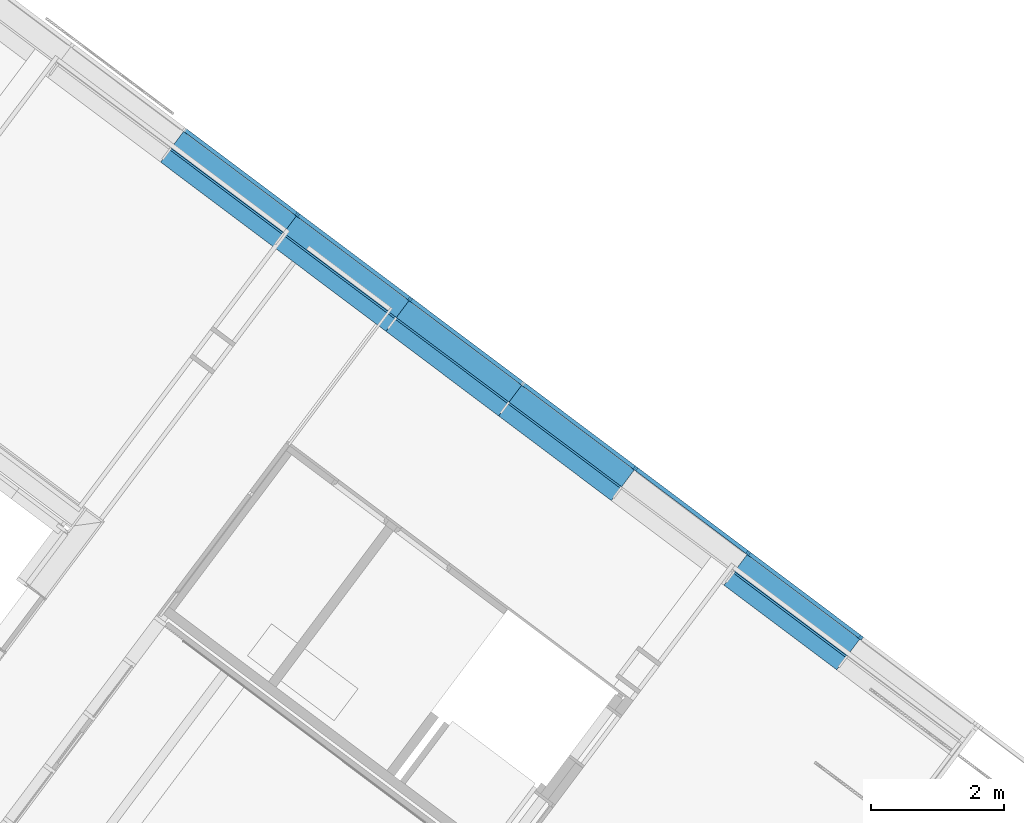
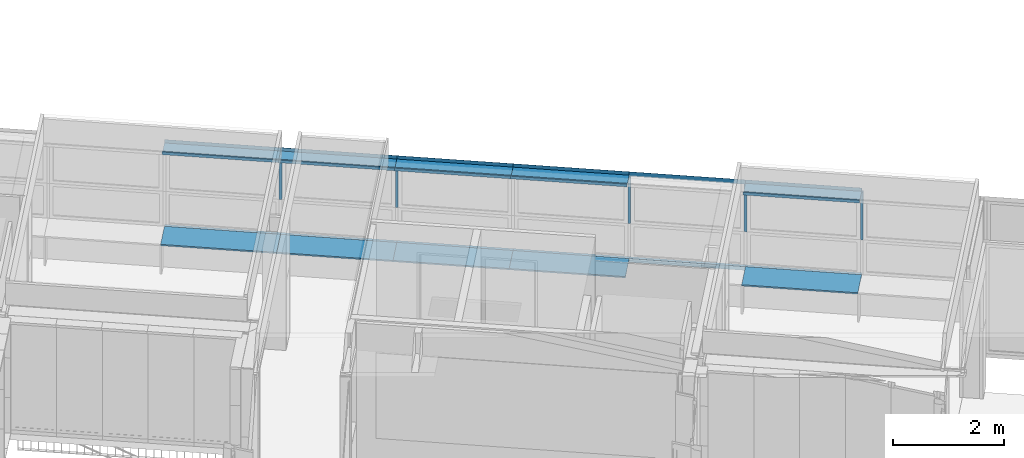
# One storey, part 71 of 243: 27 members, 2 elements without a shape of their own.
"""IFC2X3 building model written with IfcOpenShell, lengths in metres."""

import ifcopenshell
import ifcopenshell.guid

model = None  # the IFC model being written
_history = None  # IfcOwnerHistory: only IFC2X3 demands one
_inside = {}  # id of a spatial element -> (the spatial element, [elements in it])
_under = {}  # id of a project, library or spatial element -> (it, [spatial elements below it])
_declared = {}  # id of a project -> (the project, [libraries it declares])
_typed = {}  # id of a type object -> (the type object, [elements of that type])
_made_of = {}  # id of a material, layer set ... -> (it, [elements and type objects made of it])


def new_model(schema):
    """Start an empty IFC model of exactly this schema.

    Asked for "IFC4X3", IfcOpenShell would pick the latest addendum, in which some entities
    have other attributes; the version numbers below select the first issue.
    IFC2X3 requires an IfcOwnerHistory on every rooted entity: one is made here for all.
    """
    global model, _history
    if schema == "IFC4X3":
        model = ifcopenshell.file(schema_version=(4, 3, 0, 0))
    else:
        model = ifcopenshell.file(schema=schema)
    _inside.clear()
    _under.clear()
    _declared.clear()
    _typed.clear()
    _made_of.clear()
    _history = None
    if model.schema == "IFC2X3":
        org = make("IfcOrganization", Name="unknown")
        user = make(
            "IfcPersonAndOrganization",
            ThePerson=make("IfcPerson", FamilyName="unknown"),
            TheOrganization=org,
        )
        app = make(
            "IfcApplication",
            ApplicationDeveloper=org,
            Version="unknown",
            ApplicationFullName="unknown",
            ApplicationIdentifier="unknown",
        )
        _history = make(
            "IfcOwnerHistory",
            OwningUser=user,
            OwningApplication=app,
            ChangeAction="ADDED",
            CreationDate=0,
        )
    return model


def make(cls, **values):
    """One entity of the class cls with the attributes given. An attribute that is None is left unset."""
    return model.create_entity(
        cls, **{name: value for name, value in values.items() if value is not None}
    )


def entity(cls, *values):
    """Any entity or typed value of the class cls, its attributes in the order of the schema. None: left unset."""
    e = model.create_entity(cls)
    for i, value in enumerate(values):
        if value is not None:
            e[i] = value
    return e


def rooted(cls, **values):
    """An entity with a GlobalId (a new one), such as an element, a storey or a relation."""
    return make(cls, GlobalId=ifcopenshell.guid.new(), OwnerHistory=_history, **values)


def si_unit(unit_type, name, prefix=None):
    """IfcSIUnit, for example si_unit("LENGTHUNIT", "METRE", prefix="MILLI")."""
    return make("IfcSIUnit", UnitType=unit_type, Prefix=prefix, Name=name)


def converted_unit(unit_type, name, factor, base, dimensions=None, offset=None):
    """IfcConversionBasedUnit, such as the inch: factor (a typed value) times the base unit."""
    return make(
        "IfcConversionBasedUnit"
        if offset is None
        else "IfcConversionBasedUnitWithOffset",
        ConversionOffset=offset,
        Dimensions=None
        if dimensions is None
        else entity("IfcDimensionalExponents", *dimensions),
        UnitType=unit_type,
        Name=name,
        ConversionFactor=make(
            "IfcMeasureWithUnit", ValueComponent=factor, UnitComponent=base
        ),
    )


def derived_unit(unit_type, elements):
    """IfcDerivedUnit: a product of units, each with its exponent."""
    return make(
        "IfcDerivedUnit",
        Elements=[
            make("IfcDerivedUnitElement", Unit=unit, Exponent=power)
            for unit, power in elements
        ],
        UnitType=unit_type,
    )


def assignment(units):
    """IfcUnitAssignment: the units of a project."""
    return None if units is None else make("IfcUnitAssignment", Units=units)


def point(xyz):
    """IfcCartesianPoint."""
    return None if xyz is None else make("IfcCartesianPoint", Coordinates=xyz)


def direction(xyz):
    """IfcDirection."""
    return None if xyz is None else make("IfcDirection", DirectionRatios=xyz)


def frame(location, z_axis=None, x_axis=None):
    """IfcAxis2Placement3D, a coordinate frame: its origin and axes. An axis left out is left unset."""
    return make(
        "IfcAxis2Placement3D",
        Location=point(location),
        Axis=direction(z_axis),
        RefDirection=direction(x_axis),
    )


def frame_2d(location, x_axis=None):
    """IfcAxis2Placement2D, a coordinate frame in the plane: its origin and x axis."""
    return make(
        "IfcAxis2Placement2D", Location=point(location), RefDirection=direction(x_axis)
    )


def origin():
    """The frame at (0, 0, 0) with its axes left unset."""
    return frame((0.0, 0.0, 0.0))


def origin_2d_with_axis():
    """The frame at (0, 0) in the plane with the x axis (1, 0) written out."""
    return frame_2d((0.0, 0.0), x_axis=(1.0, 0.0))


def place(relative_to, where):
    """IfcLocalPlacement: puts the frame where relative to a parent placement (None: the world)."""
    return make(
        "IfcLocalPlacement", PlacementRelTo=relative_to, RelativePlacement=where
    )


def context(
    kind, dimensions, precision=None, world=None, true_north=None, identifier=None
):
    """IfcGeometricRepresentationContext, for example the 3D "Model" context."""
    return make(
        "IfcGeometricRepresentationContext",
        ContextIdentifier=identifier,
        ContextType=kind,
        CoordinateSpaceDimension=dimensions,
        Precision=precision,
        WorldCoordinateSystem=world,
        TrueNorth=true_north,
    )


def subcontext(parent, identifier, kind, view, scale=None):
    """IfcGeometricRepresentationSubContext, for example "Body" below "Model"."""
    return make(
        "IfcGeometricRepresentationSubContext",
        ContextIdentifier=identifier,
        ContextType=kind,
        ParentContext=parent,
        TargetScale=scale,
        TargetView=view,
    )


def project(units=None, contexts=None):
    """IfcProject with its units and contexts."""
    return rooted(
        "IfcProject",
        Name="project",
        RepresentationContexts=contexts,
        UnitsInContext=assignment(units),
    )


def spatial(cls, under=None, at=None, **own):
    """A site, building, storey or space (cls), placed at a placement, below another one or the project."""
    s = rooted(cls, ObjectPlacement=at, **own)
    if under is not None:
        _under.setdefault(under.id(), (under, []))[1].append(s)
    return s


def polyline(points):
    """IfcPolyline through the points."""
    return make("IfcPolyline", Points=[point(p) for p in points])


def profile(cls, at=None, kind="AREA", **sizes):
    """A parametric profile (cls). Its sizes go by their IFC names, for example OverallWidth=200.0."""
    return make(cls, ProfileType=kind, Position=at, **sizes)


def rectangle(**sizes):
    """IfcRectangleProfileDef."""
    return profile("IfcRectangleProfileDef", **sizes)


def outline(outer, holes=None, kind="AREA"):
    """IfcArbitraryClosedProfileDef: a profile drawn as a closed curve; with holes, ...WithVoids."""
    if holes is None:
        return make("IfcArbitraryClosedProfileDef", ProfileType=kind, OuterCurve=outer)
    return make(
        "IfcArbitraryProfileDefWithVoids",
        ProfileType=kind,
        OuterCurve=outer,
        InnerCurves=holes,
    )


def extrude(swept, where, along, depth):
    """IfcExtrudedAreaSolid: the profile swept, set in the frame where, extruded along a direction by depth."""
    return make(
        "IfcExtrudedAreaSolid",
        SweptArea=swept,
        Position=where,
        ExtrudedDirection=direction(along),
        Depth=depth,
    )


def shape(context_of_items, identifier, shape_type, items):
    """IfcShapeRepresentation: the items that make up one representation, for example the "Body"."""
    return make(
        "IfcShapeRepresentation",
        ContextOfItems=context_of_items,
        RepresentationIdentifier=identifier,
        RepresentationType=shape_type,
        Items=items,
    )


def source(mapping_origin, context_of_items, identifier, shape_type, items):
    """IfcRepresentationMap: a shape defined once, which mapped items show again and again."""
    return make(
        "IfcRepresentationMap",
        MappingOrigin=mapping_origin,
        MappedRepresentation=shape(context_of_items, identifier, shape_type, items),
    )


def transform(
    local_origin,
    x_axis=None,
    y_axis=None,
    z_axis=None,
    scale=None,
    scale2=None,
    scale3=None,
    uniform=True,
):
    """IfcCartesianTransformationOperator3D, or its non-uniform kind. x_axis, y_axis, z_axis: its Axis1, 2, 3."""
    if uniform:
        return make(
            "IfcCartesianTransformationOperator3D",
            Axis1=direction(x_axis),
            Axis2=direction(y_axis),
            LocalOrigin=point(local_origin),
            Scale=scale,
            Axis3=direction(z_axis),
        )
    return make(
        "IfcCartesianTransformationOperator3DnonUniform",
        Axis1=direction(x_axis),
        Axis2=direction(y_axis),
        LocalOrigin=point(local_origin),
        Scale=scale,
        Axis3=direction(z_axis),
        Scale2=scale2,
        Scale3=scale3,
    )


def mapped(mapping_source, mapping_target):
    """IfcMappedItem: shows the shape of a source again, moved by a transform."""
    return make(
        "IfcMappedItem", MappingSource=mapping_source, MappingTarget=mapping_target
    )


def material(Name=None, Category=None):
    """IfcMaterial."""
    return make("IfcMaterial", Name=Name, Category=Category)


def made_of(thing, what):
    """Note that an element or type object is made of a material, layer set ...; save() writes the relation."""
    if what is not None:
        _made_of.setdefault(what.id(), (what, []))[1].append(thing)
    return thing


def type_object(cls, material=None, **own):
    """A type object (cls), such as IfcWallType, which elements share."""
    return made_of(rooted(cls, **own), material)


def type_shapes(of_type, sources):
    """Give a type object the sources (RepresentationMaps) that its elements show as mapped items."""
    of_type.RepresentationMaps = sources


def element(
    cls,
    number,
    at=None,
    inside=None,
    cuts=None,
    type_object=None,
    material=None,
    context=None,
    identifier="Body",
    shape_type=None,
    held_by="IfcProductDefinitionShape",
    body=None,
    shapes=None,
    **own,
):
    """One element of the class cls, such as IfcWall. Its Tag is "e" and its number.

    at: its placement. inside: the storey or other place that contains it. cuts: it is an
    opening in that element (IfcRelVoidsElement). A single representation is given by context,
    identifier, shape_type and body (its items); several are given by shapes. held_by: the class
    of the entity that holds the representations. save() writes the other relations.
    """
    e = rooted(cls, Tag="e%d" % number, ObjectPlacement=at, **own)
    if body is not None:
        shapes = [shape(context, identifier, shape_type, body)]
    if shapes is not None:
        e.Representation = make(held_by, Representations=shapes)
    if inside is not None:
        _inside.setdefault(inside.id(), (inside, []))[1].append(e)
    if cuts is not None:
        rooted(
            "IfcRelVoidsElement", RelatingBuildingElement=cuts, RelatedOpeningElement=e
        )
    if type_object is not None:
        _typed.setdefault(type_object.id(), (type_object, []))[1].append(e)
    return made_of(e, material)


def aggregate(whole, parts):
    """IfcRelAggregates: a whole, such as a stair, and the parts it consists of."""
    return rooted("IfcRelAggregates", RelatingObject=whole, RelatedObjects=parts)


def save(model, path):
    """Write the relations noted so far, then the file.

    IfcRelAggregates (storeys below a building ...), IfcRelContainedInSpatialStructure (elements
    in a storey), IfcRelDefinesByType, IfcRelAssociatesMaterial and IfcRelDeclares: one each for
    every whole, place, type object, material and project.
    """
    for whole, parts in _under.values():
        aggregate(whole, parts)
    for where, things in _inside.values():
        rooted(
            "IfcRelContainedInSpatialStructure",
            RelatedElements=things,
            RelatingStructure=where,
        )
    for kind, things in _typed.values():
        rooted("IfcRelDefinesByType", RelatedObjects=things, RelatingType=kind)
    for what, things in _made_of.values():
        rooted("IfcRelAssociatesMaterial", RelatedObjects=things, RelatingMaterial=what)
    for by, libraries in _declared.values():
        rooted("IfcRelDeclares", RelatingContext=by, RelatedDefinitions=libraries)
    model.write(path)


model = new_model("IFC2X3")

# Units and contexts
model_context = context("Model", 3, precision=1e-05, world=origin(), true_north=direction((6.123031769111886e-17, 1.0)))
body_context = subcontext(model_context, "Body", "Model", "MODEL_VIEW")
ifc_project = project(units=[si_unit("LENGTHUNIT", "METRE"), si_unit("AREAUNIT", "SQUARE_METRE"), si_unit("VOLUMEUNIT", "CUBIC_METRE"), converted_unit("PLANEANGLEUNIT", "DEGREE", entity("IfcRatioMeasure", 0.017453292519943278), si_unit("PLANEANGLEUNIT", "RADIAN"), dimensions=[0, 0, 0, 0, 0, 0, 0]), si_unit("MASSUNIT", "GRAM", prefix="KILO"), derived_unit("MASSDENSITYUNIT", [(si_unit("MASSUNIT", "GRAM", prefix="KILO"), 1), (si_unit("LENGTHUNIT", "METRE"), -3)]), derived_unit("IONCONCENTRATIONUNIT", [(si_unit("MASSUNIT", "GRAM", prefix="KILO"), 1), (si_unit("LENGTHUNIT", "METRE"), -3)]), derived_unit("MOMENTOFINERTIAUNIT", [(si_unit("LENGTHUNIT", "METRE"), 4)]), si_unit("TIMEUNIT", "SECOND"), si_unit("FREQUENCYUNIT", "HERTZ"), si_unit("THERMODYNAMICTEMPERATUREUNIT", "DEGREE_CELSIUS"), derived_unit("THERMALTRANSMITTANCEUNIT", [(si_unit("MASSUNIT", "GRAM", prefix="KILO"), 1), (si_unit("THERMODYNAMICTEMPERATUREUNIT", "KELVIN"), -1), (si_unit("TIMEUNIT", "SECOND"), -3)]), derived_unit("THERMALCONDUCTANCEUNIT", [(si_unit("MASSUNIT", "GRAM", prefix="KILO"), 1), (si_unit("THERMODYNAMICTEMPERATUREUNIT", "KELVIN"), -1), (si_unit("TIMEUNIT", "SECOND"), -3), (si_unit("LENGTHUNIT", "METRE"), 1)]), derived_unit("VOLUMETRICFLOWRATEUNIT", [(si_unit("LENGTHUNIT", "METRE"), 3), (si_unit("TIMEUNIT", "SECOND"), -1)]), derived_unit("MASSFLOWRATEUNIT", [(si_unit("MASSUNIT", "GRAM", prefix="KILO"), 1), (si_unit("TIMEUNIT", "SECOND"), -1)]), derived_unit("ROTATIONALFREQUENCYUNIT", [(si_unit("TIMEUNIT", "SECOND"), -1)]), si_unit("ELECTRICCURRENTUNIT", "AMPERE"), si_unit("ELECTRICVOLTAGEUNIT", "VOLT"), si_unit("POWERUNIT", "WATT"), si_unit("FORCEUNIT", "NEWTON", prefix="KILO"), si_unit("ILLUMINANCEUNIT", "LUX"), si_unit("LUMINOUSFLUXUNIT", "LUMEN"), si_unit("LUMINOUSINTENSITYUNIT", "CANDELA"), derived_unit("USERDEFINED", [(si_unit("MASSUNIT", "GRAM", prefix="KILO"), -1), (si_unit("LENGTHUNIT", "METRE"), -2), (si_unit("TIMEUNIT", "SECOND"), 3), (si_unit("LUMINOUSFLUXUNIT", "LUMEN"), 1)]), derived_unit("USERDEFINED", [(si_unit("MASSUNIT", "GRAM", prefix="KILO"), 1), (si_unit("TIMEUNIT", "SECOND"), -3), (si_unit("LENGTHUNIT", "METRE"), 3), (si_unit("ELECTRICCURRENTUNIT", "AMPERE"), -2)]), derived_unit("SOUNDPOWERUNIT", [(si_unit("MASSUNIT", "GRAM", prefix="KILO"), 1), (si_unit("TIMEUNIT", "SECOND"), -3), (si_unit("LENGTHUNIT", "METRE"), 2)]), derived_unit("SOUNDPRESSUREUNIT", [(si_unit("MASSUNIT", "GRAM", prefix="KILO"), 1), (si_unit("LENGTHUNIT", "METRE"), -1), (si_unit("TIMEUNIT", "SECOND"), -2)]), derived_unit("LINEARVELOCITYUNIT", [(si_unit("LENGTHUNIT", "METRE"), 1), (si_unit("TIMEUNIT", "SECOND"), -1)]), si_unit("PRESSUREUNIT", "PASCAL"), derived_unit("USERDEFINED", [(si_unit("MASSUNIT", "GRAM", prefix="KILO"), 1), (si_unit("LENGTHUNIT", "METRE"), -2), (si_unit("TIMEUNIT", "SECOND"), -2)]), derived_unit("LINEARFORCEUNIT", [(si_unit("MASSUNIT", "GRAM", prefix="KILO"), 1), (si_unit("TIMEUNIT", "SECOND"), -2)]), derived_unit("PLANARFORCEUNIT", [(si_unit("MASSUNIT", "GRAM", prefix="KILO"), 1), (si_unit("LENGTHUNIT", "METRE"), -1), (si_unit("TIMEUNIT", "SECOND"), -2)]), derived_unit("SPECIFICHEATCAPACITYUNIT", [(si_unit("THERMODYNAMICTEMPERATUREUNIT", "KELVIN"), -1), (si_unit("LENGTHUNIT", "METRE"), 2), (si_unit("TIMEUNIT", "SECOND"), -2)]), derived_unit("HEATINGVALUEUNIT", [(si_unit("LENGTHUNIT", "METRE"), 2), (si_unit("TIMEUNIT", "SECOND"), -2)]), derived_unit("VAPORPERMEABILITYUNIT", [(si_unit("LENGTHUNIT", "METRE"), -1), (si_unit("TIMEUNIT", "SECOND"), 1)]), derived_unit("DYNAMICVISCOSITYUNIT", [(si_unit("MASSUNIT", "GRAM", prefix="KILO"), 1), (si_unit("TIMEUNIT", "SECOND"), -1), (si_unit("LENGTHUNIT", "METRE"), -1)]), derived_unit("THERMALEXPANSIONCOEFFICIENTUNIT", [(si_unit("THERMODYNAMICTEMPERATUREUNIT", "KELVIN"), -1)]), derived_unit("MODULUSOFELASTICITYUNIT", [(si_unit("MASSUNIT", "GRAM", prefix="KILO"), 1), (si_unit("LENGTHUNIT", "METRE"), -1), (si_unit("TIMEUNIT", "SECOND"), -2)]), derived_unit("ISOTHERMALMOISTURECAPACITYUNIT", [(si_unit("LENGTHUNIT", "METRE"), 3), (si_unit("MASSUNIT", "GRAM", prefix="KILO"), -1)]), derived_unit("MOISTUREDIFFUSIVITYUNIT", [(si_unit("TIMEUNIT", "SECOND"), -1), (si_unit("LENGTHUNIT", "METRE"), 2)])], contexts=[model_context])

# Site, building, storey
site_placement = place(None, frame((0.0, 0.0, 235.0), z_axis=(0.0, 0.0, 1.0), x_axis=(-0.7996477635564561, 0.6004693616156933, 0.0)))
site = spatial("IfcSite", under=ifc_project, at=site_placement, Name="Default", CompositionType="ELEMENT")
building_placement = place(site_placement, origin())
building = spatial("IfcBuilding", under=site, at=building_placement, CompositionType="ELEMENT")
storey_placement = place(building_placement, origin())
storey = spatial("IfcBuildingStorey", under=building, at=storey_placement, Name="P0- Escola", CompositionType="ELEMENT", Elevation=0.0)

# Curtain wall, members
curtain_wall_type_1 = type_object("IfcCurtainWallType", Name="Muro cortina:MC- EXT- MC6", PredefinedType="NOTDEFINED")
curtain_wall_1_placement = place(storey_placement, origin())
curtain_wall_1 = element("IfcCurtainWall", 1, at=curtain_wall_1_placement, inside=storey, type_object=curtain_wall_type_1, Name="Muro cortina:MC- EXT- MC6", ObjectType="Muro cortina:MC- EXT- MC6")
ifc_material_1 = material(Name="_Alumini- T1- Perfil")
member_type_1 = type_object("IfcMemberType", Name="Montante rectangular:MC- Alu- 140x52,5 cm- Fa pista- Superior", PredefinedType="MULLION", material=ifc_material_1)
shared_shape_1 = source(origin(), body_context, "Body", "SweptSolid", [
    extrude(outline(polyline([(-0.03933333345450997, -0.04916666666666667), (0.02066666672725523, -0.04916666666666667), (0.020666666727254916, 0.048333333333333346), (0.018666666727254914, 0.04833333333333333), (0.018666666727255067, 0.00083333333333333), (-0.03933333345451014, 0.00083333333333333), (-0.03933333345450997, -0.04916666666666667)])), frame((-0.048333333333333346, -0.03933333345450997, -2.117000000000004), z_axis=(0.0, 0.0, 1.0), x_axis=(0.0, -1.0, 0.0)), (0.0, 0.0, 1.0), 2.117000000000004),
])
type_shapes(member_type_1, [shared_shape_1])
member_1_placement = place(curtain_wall_1_placement, frame((51.51814360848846, -42.340191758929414, 2.6000000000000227), z_axis=(1.0, 0.0, 0.0), x_axis=(0.0, 0.0, 1.0)))
member_1 = element("IfcMember", 2, at=member_1_placement, type_object=member_type_1, material=ifc_material_1, Name="Montante rectangular:MC- Alu- 140x52,5 cm- Fa pista- Superior", ObjectType="Montante rectangular:MC- Alu- 140x52,5 cm- Fa pista- Superior", context=body_context, shape_type="MappedRepresentation", body=[
    mapped(shared_shape_1, transform((0.0, 0.0, 0.0), scale=1.0)),
])
member_2_placement = place(curtain_wall_1_placement, frame((49.401143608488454, -42.340191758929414, 2.6000000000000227), z_axis=(1.0, 0.0, 0.0), x_axis=(0.0, 0.0, 1.0)))
member_2 = element("IfcMember", 3, at=member_2_placement, type_object=member_type_1, material=ifc_material_1, Name="Montante rectangular:MC- Alu- 140x52,5 cm- Fa pista- Superior", ObjectType="Montante rectangular:MC- Alu- 140x52,5 cm- Fa pista- Superior", context=body_context, shape_type="MappedRepresentation", body=[
    mapped(shared_shape_1, transform((0.0, 0.0, 0.0), scale=1.0)),
])
member_3_placement = place(curtain_wall_1_placement, frame((47.28414360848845, -42.34019175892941, 2.6000000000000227), z_axis=(1.0, 0.0, 0.0), x_axis=(0.0, 0.0, 1.0)))
member_3 = element("IfcMember", 4, at=member_3_placement, type_object=member_type_1, material=ifc_material_1, Name="Montante rectangular:MC- Alu- 140x52,5 cm- Fa pista- Superior", ObjectType="Montante rectangular:MC- Alu- 140x52,5 cm- Fa pista- Superior", context=body_context, shape_type="MappedRepresentation", body=[
    mapped(shared_shape_1, transform((0.0, 0.0, 0.0), scale=1.0)),
])
member_4_placement = place(curtain_wall_1_placement, frame((45.167143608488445, -42.3401917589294, 2.6000000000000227), z_axis=(1.0, 0.0, 0.0), x_axis=(0.0, 0.0, 1.0)))
member_4 = element("IfcMember", 5, at=member_4_placement, type_object=member_type_1, material=ifc_material_1, Name="Montante rectangular:MC- Alu- 140x52,5 cm- Fa pista- Superior", ObjectType="Montante rectangular:MC- Alu- 140x52,5 cm- Fa pista- Superior", context=body_context, shape_type="MappedRepresentation", body=[
    mapped(shared_shape_1, transform((0.0, 0.0, 0.0), scale=1.0)),
])
member_5_placement = place(curtain_wall_1_placement, frame((43.05014360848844, -42.34019175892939, 2.6000000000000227), z_axis=(1.0, 0.0, 0.0), x_axis=(0.0, 0.0, 1.0)))
member_5 = element("IfcMember", 6, at=member_5_placement, type_object=member_type_1, material=ifc_material_1, Name="Montante rectangular:MC- Alu- 140x52,5 cm- Fa pista- Superior", ObjectType="Montante rectangular:MC- Alu- 140x52,5 cm- Fa pista- Superior", context=body_context, shape_type="MappedRepresentation", body=[
    mapped(shared_shape_1, transform((0.0, 0.0, 0.0), scale=1.0)),
])
member_6_placement = place(curtain_wall_1_placement, frame((40.933143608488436, -42.34019175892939, 2.6000000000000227), z_axis=(1.0, 0.0, 0.0), x_axis=(0.0, 0.0, 1.0)))
member_6 = element("IfcMember", 7, at=member_6_placement, type_object=member_type_1, material=ifc_material_1, Name="Montante rectangular:MC- Alu- 140x52,5 cm- Fa pista- Superior", ObjectType="Montante rectangular:MC- Alu- 140x52,5 cm- Fa pista- Superior", context=body_context, shape_type="MappedRepresentation", body=[
    mapped(shared_shape_1, transform((0.0, 0.0, 0.0), scale=1.0)),
])
member_type_2 = type_object("IfcMemberType", Name="Montante rectangular:MC- Alu- 52x80 cm- Fa pista- inferior", PredefinedType="MULLION", material=ifc_material_1)
shared_shape_2 = source(origin(), body_context, "Body", "SweptSolid", [
    extrude(rectangle(XDim=0.06000000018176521, YDim=0.085, at=origin_2d_with_axis()), frame((-0.0425, -0.030000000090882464, -2.117000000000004), z_axis=(0.0, 0.0, 1.0), x_axis=(0.0, -1.0, 0.0)), (0.0, 0.0, 1.0), 2.117000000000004),
])
type_shapes(member_type_2, [shared_shape_2])
member_7_placement = place(curtain_wall_1_placement, frame((49.401143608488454, -42.340191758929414, 0.6000000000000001), z_axis=(-1.0, 0.0, 0.0), x_axis=(0.0, 0.0, -1.0)))
member_7 = element("IfcMember", 8, at=member_7_placement, type_object=member_type_2, material=ifc_material_1, Name="Montante rectangular:MC- Alu- 52x80 cm- Fa pista- inferior", ObjectType="Montante rectangular:MC- Alu- 52x80 cm- Fa pista- inferior", context=body_context, shape_type="MappedRepresentation", body=[
    mapped(shared_shape_2, transform((0.0, 0.0, 0.0), scale=1.0)),
])
member_8_placement = place(curtain_wall_1_placement, frame((47.28414360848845, -42.34019175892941, 0.6000000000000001), z_axis=(-1.0, 0.0, 0.0), x_axis=(0.0, 0.0, -1.0)))
member_8 = element("IfcMember", 9, at=member_8_placement, type_object=member_type_2, material=ifc_material_1, Name="Montante rectangular:MC- Alu- 52x80 cm- Fa pista- inferior", ObjectType="Montante rectangular:MC- Alu- 52x80 cm- Fa pista- inferior", context=body_context, shape_type="MappedRepresentation", body=[
    mapped(shared_shape_2, transform((0.0, 0.0, 0.0), scale=1.0)),
])
member_9_placement = place(curtain_wall_1_placement, frame((45.167143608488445, -42.3401917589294, 0.6000000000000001), z_axis=(-1.0, 0.0, 0.0), x_axis=(0.0, 0.0, -1.0)))
member_9 = element("IfcMember", 10, at=member_9_placement, type_object=member_type_2, material=ifc_material_1, Name="Montante rectangular:MC- Alu- 52x80 cm- Fa pista- inferior", ObjectType="Montante rectangular:MC- Alu- 52x80 cm- Fa pista- inferior", context=body_context, shape_type="MappedRepresentation", body=[
    mapped(shared_shape_2, transform((0.0, 0.0, 0.0), scale=1.0)),
])
member_10_placement = place(curtain_wall_1_placement, frame((43.05014360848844, -42.34019175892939, 0.6000000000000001), z_axis=(-1.0, 0.0, 0.0), x_axis=(0.0, 0.0, -1.0)))
member_10 = element("IfcMember", 11, at=member_10_placement, type_object=member_type_2, material=ifc_material_1, Name="Montante rectangular:MC- Alu- 52x80 cm- Fa pista- inferior", ObjectType="Montante rectangular:MC- Alu- 52x80 cm- Fa pista- inferior", context=body_context, shape_type="MappedRepresentation", body=[
    mapped(shared_shape_2, transform((0.0, 0.0, 0.0), scale=1.0)),
])
member_11_placement = place(curtain_wall_1_placement, frame((40.933143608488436, -42.34019175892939, 0.6000000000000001), z_axis=(-1.0, 0.0, 0.0), x_axis=(0.0, 0.0, -1.0)))
member_11 = element("IfcMember", 12, at=member_11_placement, type_object=member_type_2, material=ifc_material_1, Name="Montante rectangular:MC- Alu- 52x80 cm- Fa pista- inferior", ObjectType="Montante rectangular:MC- Alu- 52x80 cm- Fa pista- inferior", context=body_context, shape_type="MappedRepresentation", body=[
    mapped(shared_shape_2, transform((0.0, 0.0, 0.0), scale=1.0)),
])
member_12_placement = place(curtain_wall_1_placement, frame((38.81614360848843, -42.34019175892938, 0.6000000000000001), z_axis=(-1.0, 0.0, 0.0), x_axis=(0.0, 0.0, -1.0)))
member_12 = element("IfcMember", 13, at=member_12_placement, type_object=member_type_2, material=ifc_material_1, Name="Montante rectangular:MC- Alu- 52x80 cm- Fa pista- inferior", ObjectType="Montante rectangular:MC- Alu- 52x80 cm- Fa pista- inferior", context=body_context, shape_type="MappedRepresentation", body=[
    mapped(shared_shape_2, transform((0.0, 0.0, 0.0), scale=1.0)),
])
member_type_3 = type_object("IfcMemberType", Name="Montante rectangular:MC- Alu- 50x60 cm- Fa pista- Centre", PredefinedType="MULLION", material=ifc_material_1)
shared_shape_3 = source(origin(), body_context, "Body", "SweptSolid", [
    extrude(rectangle(XDim=0.0600000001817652, YDim=0.05, at=frame_2d((8.673617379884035e-18, 0.0), x_axis=(1.0, 0.0))), frame((0.0, -0.030000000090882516, -1.0475000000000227), z_axis=(0.0, 0.0, 1.0), x_axis=(0.0, -1.0, 0.0)), (0.0, 0.0, 1.0), 1.0475000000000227),
])
type_shapes(member_type_3, [shared_shape_3])
member_13_placement = place(curtain_wall_1_placement, frame((38.81614360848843, -42.34019175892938, 1.455), z_axis=(0.0, 0.0, -1.0), x_axis=(1.0, 0.0, 0.0)))
member_13 = element("IfcMember", 14, at=member_13_placement, type_object=member_type_3, material=ifc_material_1, Name="Montante rectangular:MC- Alu- 50x60 cm- Fa pista- Centre", ObjectType="Montante rectangular:MC- Alu- 50x60 cm- Fa pista- Centre", context=body_context, shape_type="MappedRepresentation", body=[
    mapped(shared_shape_3, transform((0.0, 0.0, 0.0), scale=1.0)),
])
member_14_placement = place(curtain_wall_1_placement, frame((40.933143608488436, -42.34019175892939, 1.455), z_axis=(0.0, 0.0, -1.0), x_axis=(1.0, 0.0, 0.0)))
member_14 = element("IfcMember", 15, at=member_14_placement, type_object=member_type_3, material=ifc_material_1, Name="Montante rectangular:MC- Alu- 50x60 cm- Fa pista- Centre", ObjectType="Montante rectangular:MC- Alu- 50x60 cm- Fa pista- Centre", context=body_context, shape_type="MappedRepresentation", body=[
    mapped(shared_shape_3, transform((0.0, 0.0, 0.0), scale=1.0)),
])
member_15_placement = place(curtain_wall_1_placement, frame((43.05014360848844, -42.34019175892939, 1.455), z_axis=(0.0, 0.0, -1.0), x_axis=(1.0, 0.0, 0.0)))
member_15 = element("IfcMember", 16, at=member_15_placement, type_object=member_type_3, material=ifc_material_1, Name="Montante rectangular:MC- Alu- 50x60 cm- Fa pista- Centre", ObjectType="Montante rectangular:MC- Alu- 50x60 cm- Fa pista- Centre", context=body_context, shape_type="MappedRepresentation", body=[
    mapped(shared_shape_3, transform((0.0, 0.0, 0.0), scale=1.0)),
])
member_16_placement = place(curtain_wall_1_placement, frame((47.28414360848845, -42.34019175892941, 1.455), z_axis=(0.0, 0.0, -1.0), x_axis=(1.0, 0.0, 0.0)))
member_16 = element("IfcMember", 17, at=member_16_placement, type_object=member_type_3, material=ifc_material_1, Name="Montante rectangular:MC- Alu- 50x60 cm- Fa pista- Centre", ObjectType="Montante rectangular:MC- Alu- 50x60 cm- Fa pista- Centre", context=body_context, shape_type="MappedRepresentation", body=[
    mapped(shared_shape_3, transform((0.0, 0.0, 0.0), scale=1.0)),
])
member_17_placement = place(curtain_wall_1_placement, frame((49.401143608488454, -42.340191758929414, 1.455), z_axis=(0.0, 0.0, -1.0), x_axis=(1.0, 0.0, 0.0)))
member_17 = element("IfcMember", 18, at=member_17_placement, type_object=member_type_3, material=ifc_material_1, Name="Montante rectangular:MC- Alu- 50x60 cm- Fa pista- Centre", ObjectType="Montante rectangular:MC- Alu- 50x60 cm- Fa pista- Centre", context=body_context, shape_type="MappedRepresentation", body=[
    mapped(shared_shape_3, transform((0.0, 0.0, 0.0), scale=1.0)),
])
aggregate(curtain_wall_1, [member_1, member_2, member_7, member_3, member_8, member_4, member_9, member_5, member_10, member_6, member_11, member_12, member_13, member_14, member_15, member_16, member_17])

curtain_wall_type_2 = type_object("IfcCurtainWallType", PredefinedType="NOTDEFINED")
curtain_wall_2_placement = place(storey_placement, origin())
curtain_wall_2 = element("IfcCurtainWall", 19, at=curtain_wall_2_placement, inside=storey, type_object=curtain_wall_type_2)
ifc_material_2 = material(Name="_Fusta massisa- T1")
member_type_4 = type_object("IfcMemberType", Name="Montante rectangular:MC- Fusta- 34x3 cm- Fa Pista- Remat Superior", PredefinedType="MULLION", material=ifc_material_2)
shared_shape_4 = source(origin(), body_context, "Body", "SweptSolid", [
    extrude(outline(polyline([(-0.2199999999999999, -0.02666666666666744), (0.12500000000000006, -0.02666666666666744), (0.12499999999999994, 0.03333333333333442), (0.09499999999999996, 0.03333333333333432), (0.09499999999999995, -0.0066666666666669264), (-0.21999999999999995, -0.006666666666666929), (-0.2199999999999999, -0.02666666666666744)])), frame((-0.033333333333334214, 0.029999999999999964, -2.1169999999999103), z_axis=(0.0, 0.0, 1.0), x_axis=(0.0, -1.0, 0.0)), (0.0, 0.0, 1.0), 2.116999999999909),
])
type_shapes(member_type_4, [shared_shape_4])
member_18_placement = place(curtain_wall_2_placement, frame((51.518143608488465, -42.03019175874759, 2.565), z_axis=(1.0, 0.0, 0.0), x_axis=(0.0, 0.0, 1.0)))
member_18 = element("IfcMember", 20, at=member_18_placement, type_object=member_type_4, material=ifc_material_2, Name="Montante rectangular:MC- Fusta- 34x3 cm- Fa Pista- Remat Superior", ObjectType="Montante rectangular:MC- Fusta- 34x3 cm- Fa Pista- Remat Superior", context=body_context, shape_type="MappedRepresentation", body=[
    mapped(shared_shape_4, transform((0.0, 0.0, 0.0), scale=1.0)),
])
member_19_placement = place(curtain_wall_2_placement, frame((49.40114360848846, -42.03019175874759, 2.5650000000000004), z_axis=(1.0, 0.0, 0.0), x_axis=(0.0, 0.0, 1.0)))
member_19 = element("IfcMember", 21, at=member_19_placement, type_object=member_type_4, material=ifc_material_2, Name="Montante rectangular:MC- Fusta- 34x3 cm- Fa Pista- Remat Superior", ObjectType="Montante rectangular:MC- Fusta- 34x3 cm- Fa Pista- Remat Superior", context=body_context, shape_type="MappedRepresentation", body=[
    mapped(shared_shape_4, transform((0.0, 0.0, 0.0), scale=1.0)),
])
member_20_placement = place(curtain_wall_2_placement, frame((47.284143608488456, -42.030191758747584, 2.565), z_axis=(1.0, 0.0, 0.0), x_axis=(0.0, 0.0, 1.0)))
member_20 = element("IfcMember", 22, at=member_20_placement, type_object=member_type_4, material=ifc_material_2, Name="Montante rectangular:MC- Fusta- 34x3 cm- Fa Pista- Remat Superior", ObjectType="Montante rectangular:MC- Fusta- 34x3 cm- Fa Pista- Remat Superior", context=body_context, shape_type="MappedRepresentation", body=[
    mapped(shared_shape_4, transform((0.0, 0.0, 0.0), scale=1.0)),
])
member_21_placement = place(curtain_wall_2_placement, frame((45.16714360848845, -42.03019175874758, 2.565), z_axis=(1.0, 0.0, 0.0), x_axis=(0.0, 0.0, 1.0)))
member_21 = element("IfcMember", 23, at=member_21_placement, type_object=member_type_4, material=ifc_material_2, Name="Montante rectangular:MC- Fusta- 34x3 cm- Fa Pista- Remat Superior", ObjectType="Montante rectangular:MC- Fusta- 34x3 cm- Fa Pista- Remat Superior", context=body_context, shape_type="MappedRepresentation", body=[
    mapped(shared_shape_4, transform((0.0, 0.0, 0.0), scale=1.0)),
])
member_22_placement = place(curtain_wall_2_placement, frame((40.93314360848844, -42.03019175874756, 2.565), z_axis=(1.0, 0.0, 0.0), x_axis=(0.0, 0.0, 1.0)))
member_22 = element("IfcMember", 24, at=member_22_placement, type_object=member_type_4, material=ifc_material_2, Name="Montante rectangular:MC- Fusta- 34x3 cm- Fa Pista- Remat Superior", ObjectType="Montante rectangular:MC- Fusta- 34x3 cm- Fa Pista- Remat Superior", context=body_context, shape_type="MappedRepresentation", body=[
    mapped(shared_shape_4, transform((0.0, 0.0, 0.0), scale=1.0)),
])
member_type_5 = type_object("IfcMemberType", Name="Montante rectangular:MC- Fusta- 34x3 cm- Fa Pista- Remat Inferior", PredefinedType="MULLION", material=ifc_material_2)
shared_shape_5 = source(origin(), body_context, "Body", "SweptSolid", [
    extrude(outline(polyline([(0.018333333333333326, -0.015000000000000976), (0.2783333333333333, -0.015000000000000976), (0.27833333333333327, 0.015000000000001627), (-0.2966666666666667, 0.014999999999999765), (-0.29666666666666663, 0.0), (0.018333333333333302, 0.0), (0.018333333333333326, -0.015000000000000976)])), frame((0.015000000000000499, -0.046666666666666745, -2.1170000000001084), z_axis=(0.0, 0.0, 1.0), x_axis=(0.0, -1.0, 0.0)), (0.0, 0.0, 1.0), 2.117000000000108),
])
type_shapes(member_type_5, [shared_shape_5])
member_23_placement = place(curtain_wall_2_placement, frame((51.518143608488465, -42.03019175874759, 0.6550000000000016), z_axis=(1.0, 0.0, 0.0), x_axis=(0.0, 0.0, 1.0)))
member_23 = element("IfcMember", 25, at=member_23_placement, type_object=member_type_5, material=ifc_material_2, Name="Montante rectangular:MC- Fusta- 34x3 cm- Fa Pista- Remat Inferior", ObjectType="Montante rectangular:MC- Fusta- 34x3 cm- Fa Pista- Remat Inferior", context=body_context, shape_type="MappedRepresentation", body=[
    mapped(shared_shape_5, transform((0.0, 0.0, 0.0), scale=1.0)),
])
member_24_placement = place(curtain_wall_2_placement, frame((49.40114360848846, -42.03019175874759, 0.6550000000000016), z_axis=(1.0, 0.0, 0.0), x_axis=(0.0, 0.0, 1.0)))
member_24 = element("IfcMember", 26, at=member_24_placement, type_object=member_type_5, material=ifc_material_2, Name="Montante rectangular:MC- Fusta- 34x3 cm- Fa Pista- Remat Inferior", ObjectType="Montante rectangular:MC- Fusta- 34x3 cm- Fa Pista- Remat Inferior", context=body_context, shape_type="MappedRepresentation", body=[
    mapped(shared_shape_5, transform((0.0, 0.0, 0.0), scale=1.0)),
])
member_25_placement = place(curtain_wall_2_placement, frame((47.284143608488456, -42.030191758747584, 0.6550000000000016), z_axis=(1.0, 0.0, 0.0), x_axis=(0.0, 0.0, 1.0)))
member_25 = element("IfcMember", 27, at=member_25_placement, type_object=member_type_5, material=ifc_material_2, Name="Montante rectangular:MC- Fusta- 34x3 cm- Fa Pista- Remat Inferior", ObjectType="Montante rectangular:MC- Fusta- 34x3 cm- Fa Pista- Remat Inferior", context=body_context, shape_type="MappedRepresentation", body=[
    mapped(shared_shape_5, transform((0.0, 0.0, 0.0), scale=1.0)),
])
member_26_placement = place(curtain_wall_2_placement, frame((45.16714360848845, -42.03019175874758, 0.6550000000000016), z_axis=(1.0, 0.0, 0.0), x_axis=(0.0, 0.0, 1.0)))
member_26 = element("IfcMember", 28, at=member_26_placement, type_object=member_type_5, material=ifc_material_2, Name="Montante rectangular:MC- Fusta- 34x3 cm- Fa Pista- Remat Inferior", ObjectType="Montante rectangular:MC- Fusta- 34x3 cm- Fa Pista- Remat Inferior", context=body_context, shape_type="MappedRepresentation", body=[
    mapped(shared_shape_5, transform((0.0, 0.0, 0.0), scale=1.0)),
])
member_27_placement = place(curtain_wall_2_placement, frame((40.93314360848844, -42.03019175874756, 0.6550000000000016), z_axis=(1.0, 0.0, 0.0), x_axis=(0.0, 0.0, 1.0)))
member_27 = element("IfcMember", 29, at=member_27_placement, type_object=member_type_5, material=ifc_material_2, Name="Montante rectangular:MC- Fusta- 34x3 cm- Fa Pista- Remat Inferior", ObjectType="Montante rectangular:MC- Fusta- 34x3 cm- Fa Pista- Remat Inferior", context=body_context, shape_type="MappedRepresentation", body=[
    mapped(shared_shape_5, transform((0.0, 0.0, 0.0), scale=1.0)),
])
aggregate(curtain_wall_2, [member_18, member_19, member_23, member_20, member_24, member_21, member_25, member_26, member_22, member_27])

save(model, "model.ifc")
